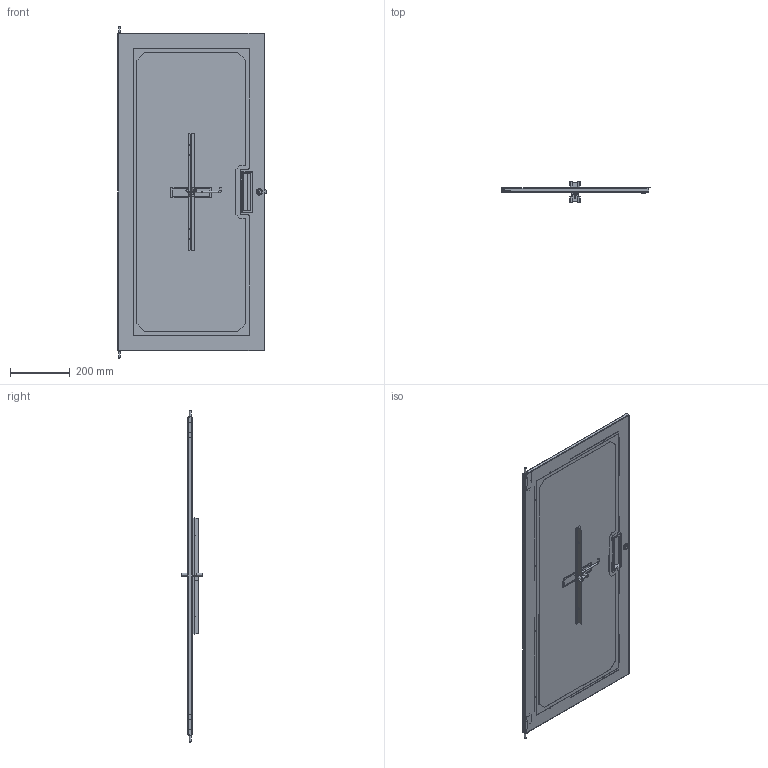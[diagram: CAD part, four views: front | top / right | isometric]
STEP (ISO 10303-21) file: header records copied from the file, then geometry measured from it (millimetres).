
FILE_DESCRIPTION( ( 'Unknown' ), '1' );
FILE_NAME( 'Q:/C2/WEB DRAWINGS/STEP/C2DF1942P.stp', 'Unknown', ( 'Unknown' ), ( 'Unknown' ), 'XStep 1.0', 'Unknown', ' ' );
FILE_SCHEMA( ( 'CONFIG_CONTROL_DESIGN' ) );
Length unit declared in the file: millimetre
Products named in the file (24): Assem1; Assem2; Assem3; 1; 2; 3; 4; 5; 6; 7; 8; 9; 10; 11; 12; 13; 14; 15; 16; 17; 18; 19; 20; 21
Bounding box: 496.67 x 69.85 x 1108.35 mm (x, y, z)
Volume: 5970797.1 mm3; surface area: 3269272.9 mm2
Topology: 68 solids, 68 shells, 1038 faces, 2431 edges, 1568 vertices
Faces by surface type: plane 679, cylinder 284, cone 53, bspline 16, torus 6
Full cylindrical faces by diameter (mm): 4.775 x42, 5.182 x3, 6.35 x51, 8.382 x2, 13.868 x2, 13.97 x2, 21.996 x2
Entity records: 10643 total; most frequent: CARTESIAN_POINT 1962, DIRECTION 1629, ORIENTED_EDGE 1438, EDGE_CURVE 719, AXIS2_PLACEMENT_3D 573, VERTEX_POINT 494, LINE 483, VECTOR 483
